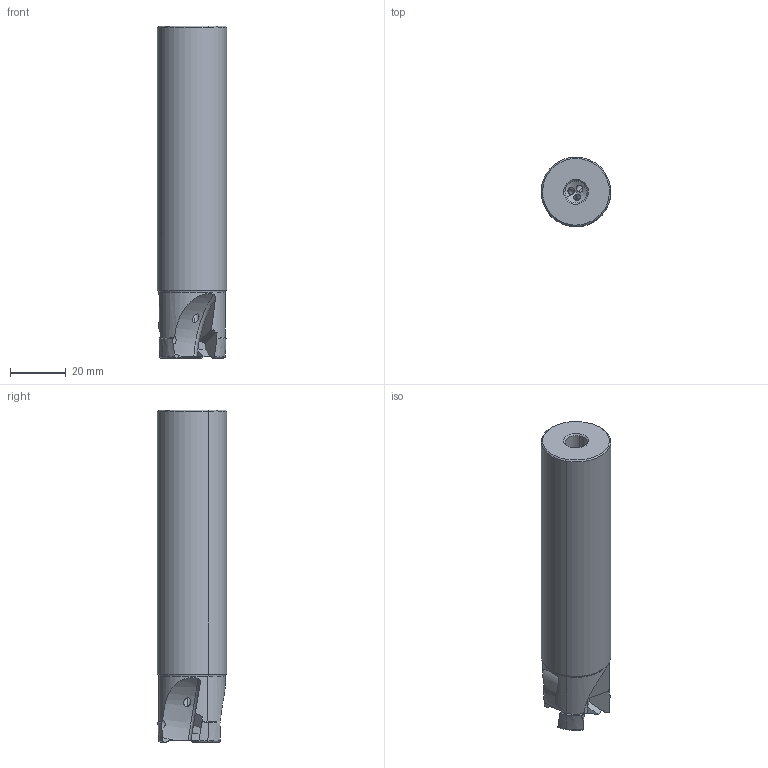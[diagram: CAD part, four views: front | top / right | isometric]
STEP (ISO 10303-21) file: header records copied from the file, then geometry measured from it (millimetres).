
FILE_DESCRIPTION(('CATIA V5 STEP'),'2;1');
FILE_NAME('I:\isr\design\admin8\users\yousef_k\3106414-D.stp','2012-11-15T15:35:33+00:00',('none'),('none'),'CATIA Version 5 Release 21 SP 3 (IN-10)','CATIA V5 STEP AP214','none');
FILE_SCHEMA(('AUTOMOTIVE_DESIGN { 1 0 10303 214 1 1 1 1 }'));
Length unit declared in the file: millimetre
Products named in the file (1): 61070345_0  HM390 ETP D25-3-C25-10
Bounding box: 24.99 x 24.99 x 119.4 mm (x, y, z)
Volume: 48663 mm3; surface area: 12992.2 mm2
Topology: 1 solids, 1 shells, 79 faces, 219 edges, 140 vertices
Faces by surface type: plane 23, torus 21, cylinder 18, cone 14, revolution 3
Entity records: 2855 total; most frequent: CARTESIAN_POINT 1121, ORIENTED_EDGE 434, DIRECTION 223, EDGE_CURVE 217, VERTEX_POINT 140, AXIS2_PLACEMENT_3D 115, B_SPLINE_CURVE_WITH_KNOTS 104, EDGE_LOOP 85
